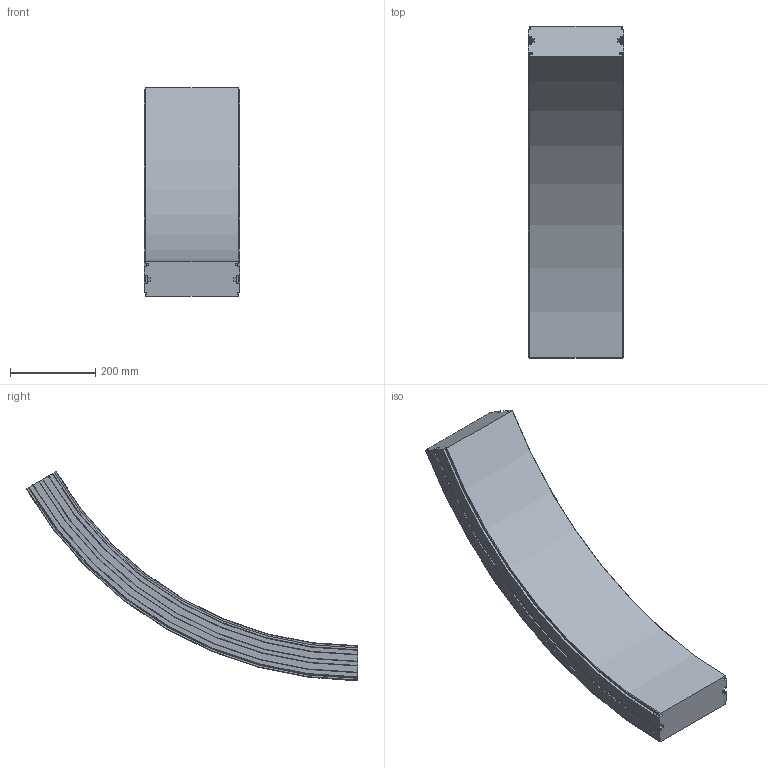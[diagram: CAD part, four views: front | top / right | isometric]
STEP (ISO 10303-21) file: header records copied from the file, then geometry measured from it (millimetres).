
FILE_DESCRIPTION(/* description */ ('VERTIKALKURVA S220 R860'),/* implementation_level */ '2;1');
FILE_NAME(/* name */ '\\carryline.intra\privat\users\mathias\Desktop\Tillfälliga filer\220-5695+220-2000-NER-01.stp',/* time_stamp */ '2018-11-29T14:45:53+01:00',/* author */ ('MD'),/* organization */ ('CARRYLINE'),/* preprocessor_version */ 'ST-DEVELOPER v17',/* originating_system */ 'Autodesk Inventor 2018',/* authorisation */ '');
FILE_SCHEMA (('AUTOMOTIVE_DESIGN { 1 0 10303 214 3 1 1 }'));
Length unit declared in the file: millimetre
Products named in the file (1): 220-5695+220-2000-NER-01
Bounding box: 224 x 778.99 x 490.5 mm (x, y, z)
Volume: 15915490 mm3; surface area: 712269 mm2
Topology: 1 solids, 1 shells, 113 faces, 318 edges, 212 vertices
Faces by surface type: plane 48, cylinder 31, bspline 14, cone 14, torus 6
Entity records: 8328 total; most frequent: CARTESIAN_POINT 5360, ORIENTED_EDGE 636, DIRECTION 576, EDGE_CURVE 318, VERTEX_POINT 212, AXIS2_PLACEMENT_3D 199, LINE 178, VECTOR 178
